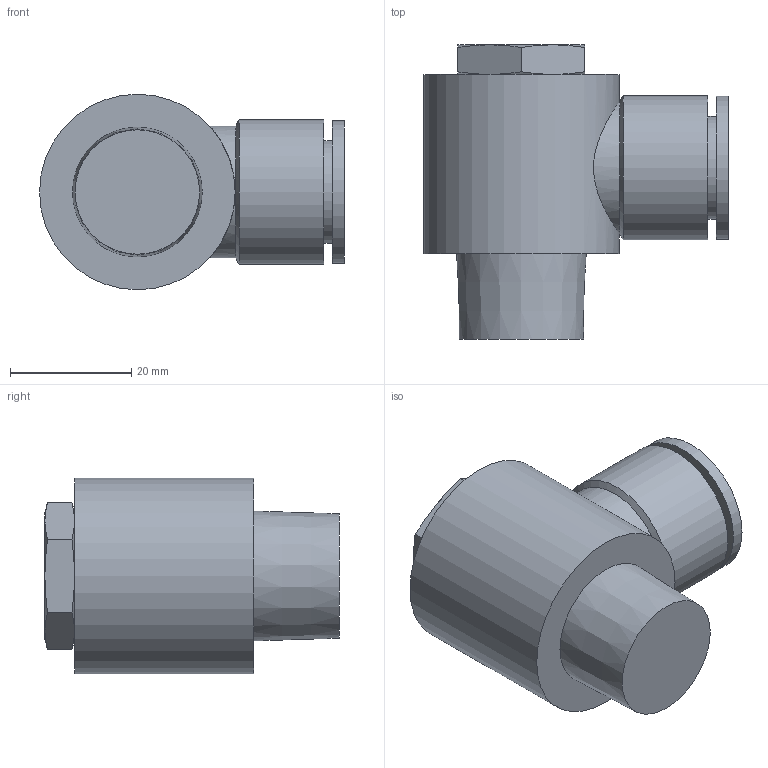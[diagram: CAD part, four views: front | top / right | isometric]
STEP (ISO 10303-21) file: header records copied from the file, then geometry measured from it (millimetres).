
FILE_DESCRIPTION(/* description */ ('STEP AP214'),/* implementation_level */ '2;1');
FILE_NAME(/* name */ 'KQ2V16-04AS',/* time_stamp */ '2024-10-24T13:58:52+02:00',/* author */ ('License CC BY-ND 4.0'),/* organization */ ('CADENAS'),/* preprocessor_version */ 'ST-DEVELOPER v19.3',/* originating_system */ 'PARTsolutions',/* authorisation */ ' ');
FILE_SCHEMA (('AUTOMOTIVE_DESIGN {1 0 10303 214 3 1 1}'));
Length unit declared in the file: millimetre
Products named in the file (1): KQ2V16-04AS
Bounding box: 50.35 x 48.6 x 32.3 mm (x, y, z)
Volume: 34904.9 mm3; surface area: 8953.5 mm2
Topology: 1 solids, 1 shells, 34 faces, 68 edges, 41 vertices
Faces by surface type: cone 14, plane 14, cylinder 6
Full cylindrical faces by diameter (mm): 16 x1, 16.95 x1, 21.8 x1, 23.6 x1, 23.8 x1, 32.3 x1
Entity records: 875 total; most frequent: CARTESIAN_POINT 223, DIRECTION 126, ORIENTED_EDGE 112, AXIS2_PLACEMENT_3D 60, EDGE_CURVE 56, EDGE_LOOP 48, FACE_BOUND 48, VERTEX_POINT 38
